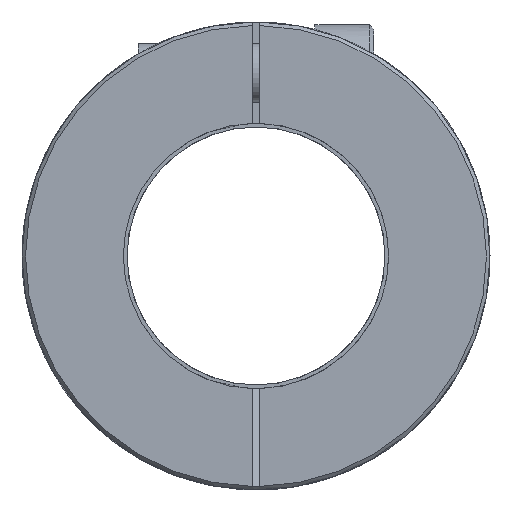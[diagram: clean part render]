
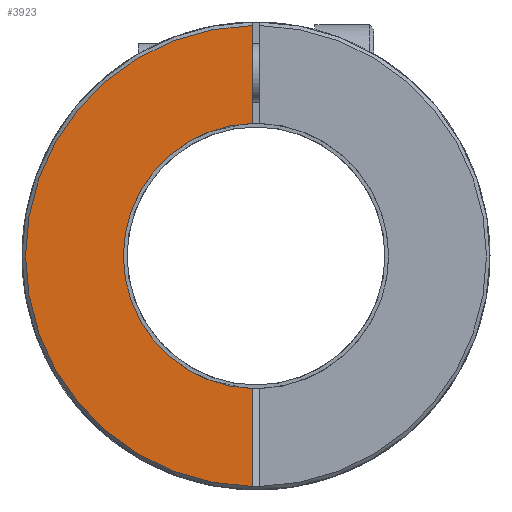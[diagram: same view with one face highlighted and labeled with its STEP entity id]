
A CAD part, front view. The second image highlights one B-rep face of the part: STEP entity #3923.
In plain terms, the highlighted planar face has unit normal (0, -1, 0).
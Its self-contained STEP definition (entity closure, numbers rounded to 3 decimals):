
#1=DIRECTION('',(0.,0.,-1.));
#2=VECTOR('',#1,13.273);
#3=CARTESIAN_POINT('',(-0.5,-75.,31.266));
#4=LINE('',#3,#2);
#5=CARTESIAN_POINT('',(0.,-75.,0.));
#6=DIRECTION('',(0.,1.,0.));
#7=DIRECTION('',(-1.,0.,0.));
#8=AXIS2_PLACEMENT_3D('',#5,#6,#7);
#10=CARTESIAN_POINT('',(0.,-75.,0.));
#11=DIRECTION('',(0.,1.,0.));
#12=DIRECTION('',(-0.028,0.,-1.));
#13=AXIS2_PLACEMENT_3D('',#10,#11,#12);
#15=DIRECTION('',(0.,0.,-1.));
#16=VECTOR('',#15,13.273);
#17=CARTESIAN_POINT('',(-0.5,-75.,-17.993));
#18=LINE('',#17,#16);
#3387=CARTESIAN_POINT('',(0.,-75.,0.));
#3388=DIRECTION('',(0.,-1.,0.));
#3389=DIRECTION('',(-0.016,0.,1.));
#3390=AXIS2_PLACEMENT_3D('',#3387,#3388,#3389);
#3543=CARTESIAN_POINT('',(-18.,-75.,0.));
#3544=VERTEX_POINT('',#3543);
#3681=CARTESIAN_POINT('',(-0.5,-75.,31.266));
#3682=CARTESIAN_POINT('',(-0.5,-75.,17.993));
#3683=VERTEX_POINT('',#3681);
#3684=VERTEX_POINT('',#3682);
#3685=CARTESIAN_POINT('',(-0.5,-75.,-17.993));
#3686=CARTESIAN_POINT('',(-0.5,-75.,-31.266));
#3687=VERTEX_POINT('',#3685);
#3688=VERTEX_POINT('',#3686);
#3906=CARTESIAN_POINT('',(0.,-75.,0.));
#3907=DIRECTION('',(0.,1.,0.));
#3908=DIRECTION('',(1.,0.,0.));
#3909=AXIS2_PLACEMENT_3D('',#3906,#3907,#3908);
#3910=PLANE('',#3909);
#3912=ORIENTED_EDGE('',*,*,#3911,.T.);
#3914=ORIENTED_EDGE('',*,*,#3913,.F.);
#3916=ORIENTED_EDGE('',*,*,#3915,.F.);
#3918=ORIENTED_EDGE('',*,*,#3917,.T.);
#3920=ORIENTED_EDGE('',*,*,#3919,.F.);
#3921=EDGE_LOOP('',(#3912,#3914,#3916,#3918,#3920));
#3922=FACE_OUTER_BOUND('',#3921,.F.);
#3923=ADVANCED_FACE('',(#3922),#3910,.F.);
#9=CIRCLE('',#8,18.);
#14=CIRCLE('',#13,18.);
#3391=CIRCLE('',#3390,31.27);
#3911=EDGE_CURVE('',#3683,#3684,#4,.T.);
#3913=EDGE_CURVE('',#3544,#3684,#9,.T.);
#3915=EDGE_CURVE('',#3687,#3544,#14,.T.);
#3917=EDGE_CURVE('',#3687,#3688,#18,.T.);
#3919=EDGE_CURVE('',#3683,#3688,#3391,.T.);
